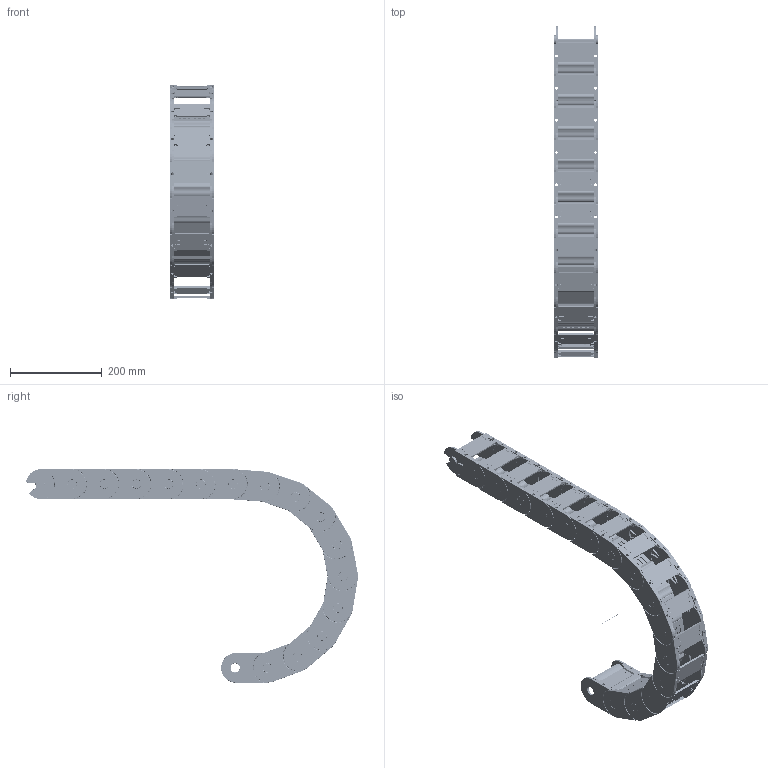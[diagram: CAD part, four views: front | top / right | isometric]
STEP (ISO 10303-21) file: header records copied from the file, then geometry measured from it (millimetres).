
FILE_DESCRIPTION((''),'2;1');
FILE_NAME('C:\Uebbing\PARAMETERKETTEN\KOLIBRI\Kol_65_095_1\KOLIBRI 65_095_1_R200.stp','2012-03-06T08:25:42',('Uebbing'),(''),'Autodesk Inventor 10','Autodesk Inventor 10','');
FILE_SCHEMA(('AUTOMOTIVE_DESIGN { 1 0 10303 214 1 1 1 1 }'));
Length unit declared in the file: millimetre
Products named in the file (5): KOLIBRI 65_095_1_PARAMETRISCH; Achse; Kol_65_095_1; Kol_65_095_1 Klappsteg; Kol_65_095_5 Lasche
Assembly tree (19 placements, depth 3):
  KOLIBRI 65_095_1_PARAMETRISCH
    Achse
    Kol_65_095_1  x16
      Kol_65_095_1 Klappsteg
      Kol_65_095_5 Lasche
Bounding box: 95 x 722.11 x 465 mm (x, y, z)
Volume: 1509440.8 mm3; surface area: 948233.7 mm2
Topology: 33 solids, 33 shells, 8259 faces, 22596 edges, 14483 vertices
Faces by surface type: plane 3554, bspline 2960, cylinder 1457, torus 192, cone 64, sphere 32
Full cylindrical faces by diameter (mm): 1 x1, 2.514 x16, 4 x48, 4.414 x16, 6 x32, 20 x32
Entity records: 17500 total; most frequent: CARTESIAN_POINT 4698, ORIENTED_EDGE 2758, DIRECTION 2391, EDGE_CURVE 1379, VECTOR 1007, LINE 1007, VERTEX_POINT 896, AXIS2_PLACEMENT_3D 692
